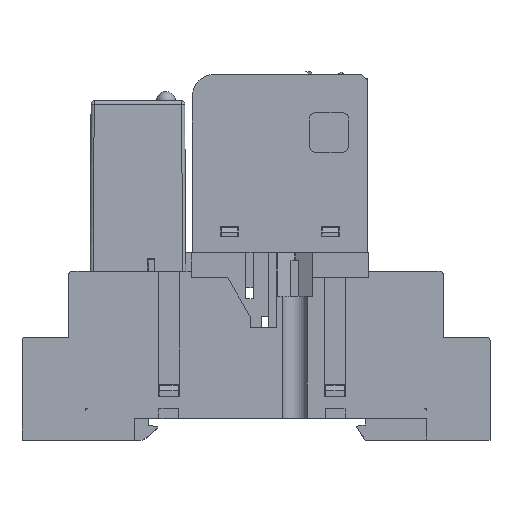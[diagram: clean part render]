
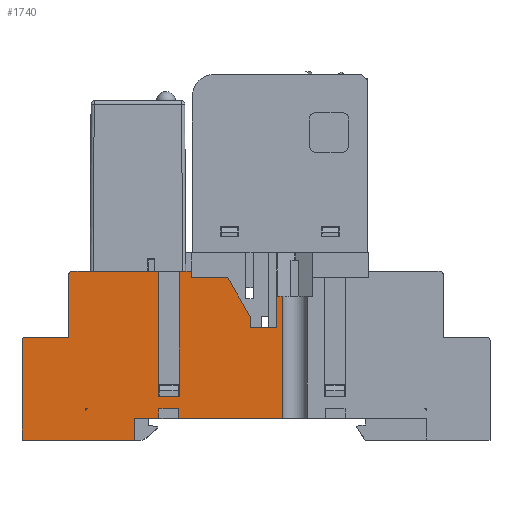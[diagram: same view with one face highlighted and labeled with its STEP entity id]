
A CAD part, top view. The second image highlights one B-rep face of the part: STEP entity #1740.
In plain terms, the highlighted planar face has unit normal (0, 0, 1).
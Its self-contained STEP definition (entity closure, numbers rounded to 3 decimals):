
#1740=ADVANCED_FACE('',(#38654,#38656),#38658,.T.);
#38654=FACE_BOUND('',#38655,.T.);
#38655=EDGE_LOOP('',(#74058,#74059,#74060,#74061,#74062,#74063,#74064,#74065,#74066,
#74067,#74068,#74069,#74070,#74071,#74072,#74073,#74074,#74075,#74076,#74077,#74078,
#74079,#74080,#74081,#74082));
#38656=FACE_BOUND('',#38657,.T.);
#38657=EDGE_LOOP('',(#74083,#74084,#74085));
#38658=PLANE('',#38659);
#38659=AXIS2_PLACEMENT_3D('',#38660,#38661,#38662);
#38660=CARTESIAN_POINT('',(-43.65,0.,15.));
#38661=DIRECTION('',(0.,0.,1.));
#38662=DIRECTION('',(1.,0.,0.));
#74058=ORIENTED_EDGE('',*,*,#96170,.T.);
#74059=ORIENTED_EDGE('',*,*,#96171,.T.);
#74060=ORIENTED_EDGE('',*,*,#96172,.T.);
#74061=ORIENTED_EDGE('',*,*,#95763,.F.);
#74062=ORIENTED_EDGE('',*,*,#96169,.F.);
#74063=ORIENTED_EDGE('',*,*,#96173,.T.);
#74064=ORIENTED_EDGE('',*,*,#96174,.T.);
#74065=ORIENTED_EDGE('',*,*,#96175,.F.);
#74066=ORIENTED_EDGE('',*,*,#96176,.F.);
#74067=ORIENTED_EDGE('',*,*,#96177,.T.);
#74068=ORIENTED_EDGE('',*,*,#96178,.T.);
#74069=ORIENTED_EDGE('',*,*,#96179,.F.);
#74070=ORIENTED_EDGE('',*,*,#96180,.T.);
#74071=ORIENTED_EDGE('',*,*,#96181,.T.);
#74072=ORIENTED_EDGE('',*,*,#96182,.T.);
#74073=ORIENTED_EDGE('',*,*,#96183,.F.);
#74074=ORIENTED_EDGE('',*,*,#96184,.T.);
#74075=ORIENTED_EDGE('',*,*,#96185,.F.);
#74076=ORIENTED_EDGE('',*,*,#96186,.T.);
#74077=ORIENTED_EDGE('',*,*,#96187,.T.);
#74078=ORIENTED_EDGE('',*,*,#96188,.T.);
#74079=ORIENTED_EDGE('',*,*,#96189,.T.);
#74080=ORIENTED_EDGE('',*,*,#96190,.T.);
#74081=ORIENTED_EDGE('',*,*,#96191,.T.);
#74082=ORIENTED_EDGE('',*,*,#95767,.F.);
#74083=ORIENTED_EDGE('',*,*,#96192,.T.);
#74084=ORIENTED_EDGE('',*,*,#96193,.T.);
#74085=ORIENTED_EDGE('',*,*,#96194,.F.);
#95763=EDGE_CURVE('',#107269,#107271,#107272,.T.);
#95767=EDGE_CURVE('',#107277,#107279,#107280,.T.);
#96169=EDGE_CURVE('',#107970,#107269,#107972,.F.);
#96170=EDGE_CURVE('',#107277,#107973,#107974,.F.);
#96171=EDGE_CURVE('',#107973,#107975,#107976,.F.);
#96172=EDGE_CURVE('',#107975,#107271,#107977,.F.);
#96173=EDGE_CURVE('',#107970,#107978,#107979,.F.);
#96174=EDGE_CURVE('',#107978,#107980,#107981,.T.);
#96175=EDGE_CURVE('',#107982,#107980,#107983,.F.);
#96176=EDGE_CURVE('',#107984,#107982,#107985,.T.);
#96177=EDGE_CURVE('',#107984,#107986,#107987,.T.);
#96178=EDGE_CURVE('',#107986,#107988,#107989,.T.);
#96179=EDGE_CURVE('',#107990,#107988,#107991,.T.);
#96180=EDGE_CURVE('',#107990,#107992,#107993,.F.);
#96181=EDGE_CURVE('',#107992,#107994,#107995,.F.);
#96182=EDGE_CURVE('',#107994,#107996,#107997,.F.);
#96183=EDGE_CURVE('',#107998,#107996,#107999,.T.);
#96184=EDGE_CURVE('',#107998,#108000,#108001,.T.);
#96185=EDGE_CURVE('',#108002,#108000,#108003,.T.);
#96186=EDGE_CURVE('',#108002,#108004,#108005,.F.);
#96187=EDGE_CURVE('',#108004,#108006,#108007,.F.);
#96188=EDGE_CURVE('',#108006,#108008,#108009,.F.);
#96189=EDGE_CURVE('',#108008,#108010,#108011,.F.);
#96190=EDGE_CURVE('',#108010,#108012,#108013,.F.);
#96191=EDGE_CURVE('',#108012,#107279,#108014,.F.);
#96192=EDGE_CURVE('',#108015,#108016,#108017,.F.);
#96193=EDGE_CURVE('',#108016,#108018,#108019,.F.);
#96194=EDGE_CURVE('',#108015,#108018,#108020,.F.);
#107269=VERTEX_POINT('',#126512);
#107271=VERTEX_POINT('',#126516);
#107272=LINE('',#126517,#126518);
#107277=VERTEX_POINT('',#126528);
#107279=VERTEX_POINT('',#126532);
#107280=LINE('',#126533,#126534);
#107970=VERTEX_POINT('',#128071);
#107972=CIRCLE('',#128075,0.5);
#107973=VERTEX_POINT('',#128079);
#107974=LINE('',#128080,#128081);
#107975=VERTEX_POINT('',#128083);
#107976=LINE('',#128084,#128085);
#107977=LINE('',#128087,#128088);
#107978=VERTEX_POINT('',#128090);
#107979=LINE('',#128091,#128092);
#107980=VERTEX_POINT('',#128094);
#107981=LINE('',#128095,#128096);
#107982=VERTEX_POINT('',#128098);
#107983=CIRCLE('',#128099,0.5);
#107984=VERTEX_POINT('',#128103);
#107985=LINE('',#128104,#128105);
#107986=VERTEX_POINT('',#128107);
#107987=LINE('',#128108,#128109);
#107988=VERTEX_POINT('',#128111);
#107989=LINE('',#128112,#128113);
#107990=VERTEX_POINT('',#128115);
#107991=LINE('',#128116,#128117);
#107992=VERTEX_POINT('',#128119);
#107993=LINE('',#128120,#128121);
#107994=VERTEX_POINT('',#128123);
#107995=LINE('',#128124,#128125);
#107996=VERTEX_POINT('',#128127);
#107997=LINE('',#128128,#128129);
#107998=VERTEX_POINT('',#128131);
#107999=LINE('',#128132,#128133);
#108000=VERTEX_POINT('',#128135);
#108001=LINE('',#128136,#128137);
#108002=VERTEX_POINT('',#128139);
#108003=LINE('',#128140,#128141);
#108004=VERTEX_POINT('',#128143);
#108005=LINE('',#128144,#128145);
#108006=VERTEX_POINT('',#128147);
#108007=LINE('',#128148,#128149);
#108008=VERTEX_POINT('',#128151);
#108009=LINE('',#128152,#128153);
#108010=VERTEX_POINT('',#128155);
#108011=LINE('',#128156,#128157);
#108012=VERTEX_POINT('',#128159);
#108013=LINE('',#128160,#128161);
#108014=LINE('',#128163,#128164);
#108015=VERTEX_POINT('',#128166);
#108016=VERTEX_POINT('',#128167);
#108017=LINE('',#128168,#128169);
#108018=VERTEX_POINT('',#128171);
#108019=LINE('',#128172,#128173);
#108020=CIRCLE('',#128175,0.3);
#126512=CARTESIAN_POINT('',(-35.65,27.,15.));
#126516=CARTESIAN_POINT('',(-21.85,27.,15.));
#126517=CARTESIAN_POINT('',(-35.65,27.,15.));
#126518=VECTOR('',#126519,1.);
#126519=DIRECTION('',(1.,0.,0.));
#126528=CARTESIAN_POINT('',(-18.45,27.,15.));
#126532=CARTESIAN_POINT('',(-16.55,27.,15.));
#126533=CARTESIAN_POINT('',(-18.45,27.,15.));
#126534=VECTOR('',#126535,1.);
#126535=DIRECTION('',(1.,0.,0.));
#128071=CARTESIAN_POINT('',(-36.15,26.5,15.));
#128075=AXIS2_PLACEMENT_3D('',#128076,#128077,#128078);
#128076=CARTESIAN_POINT('',(-35.65,26.5,15.));
#128077=DIRECTION('',(0.,-0.,1.));
#128078=DIRECTION('',(0.,1.,0.));
#128079=CARTESIAN_POINT('',(-18.45,7.,15.));
#128080=CARTESIAN_POINT('',(-18.45,7.,15.));
#128081=VECTOR('',#128082,1.);
#128082=DIRECTION('',(0.,1.,0.));
#128083=CARTESIAN_POINT('',(-21.85,7.,15.));
#128084=CARTESIAN_POINT('',(-21.85,7.,15.));
#128085=VECTOR('',#128086,1.);
#128086=DIRECTION('',(1.,0.,0.));
#128087=CARTESIAN_POINT('',(-21.85,27.,15.));
#128088=VECTOR('',#128089,1.);
#128089=DIRECTION('',(0.,-1.,0.));
#128090=CARTESIAN_POINT('',(-36.15,16.5,15.));
#128091=CARTESIAN_POINT('',(-36.15,16.5,15.));
#128092=VECTOR('',#128093,1.);
#128093=DIRECTION('',(0.,1.,0.));
#128094=CARTESIAN_POINT('',(-43.15,16.5,15.));
#128095=CARTESIAN_POINT('',(-36.15,16.5,15.));
#128096=VECTOR('',#128097,1.);
#128097=DIRECTION('',(-1.,0.,0.));
#128098=CARTESIAN_POINT('',(-43.65,16.,15.));
#128099=AXIS2_PLACEMENT_3D('',#128100,#128101,#128102);
#128100=CARTESIAN_POINT('',(-43.15,16.,15.));
#128101=DIRECTION('',(0.,-0.,1.));
#128102=DIRECTION('',(0.,1.,0.));
#128103=CARTESIAN_POINT('',(-43.65,0.,15.));
#128104=CARTESIAN_POINT('',(-43.65,0.,15.));
#128105=VECTOR('',#128106,1.);
#128106=DIRECTION('',(0.,1.,0.));
#128107=CARTESIAN_POINT('',(-25.65,0.,15.));
#128108=CARTESIAN_POINT('',(-43.65,0.,15.));
#128109=VECTOR('',#128110,1.);
#128110=DIRECTION('',(1.,0.,0.));
#128111=CARTESIAN_POINT('',(-25.65,3.5,15.));
#128112=CARTESIAN_POINT('',(-25.65,0.,15.));
#128113=VECTOR('',#128114,1.);
#128114=DIRECTION('',(0.,1.,0.));
#128115=CARTESIAN_POINT('',(-21.75,3.5,15.));
#128116=CARTESIAN_POINT('',(-21.75,3.5,15.));
#128117=VECTOR('',#128118,1.);
#128118=DIRECTION('',(-1.,0.,0.));
#128119=CARTESIAN_POINT('',(-21.75,5.,15.));
#128120=CARTESIAN_POINT('',(-21.75,5.,15.));
#128121=VECTOR('',#128122,1.);
#128122=DIRECTION('',(0.,-1.,0.));
#128123=CARTESIAN_POINT('',(-18.55,5.,15.));
#128124=CARTESIAN_POINT('',(-18.55,5.,15.));
#128125=VECTOR('',#128126,1.);
#128126=DIRECTION('',(-1.,0.,0.));
#128127=CARTESIAN_POINT('',(-18.55,3.5,15.));
#128128=CARTESIAN_POINT('',(-18.55,3.5,15.));
#128129=VECTOR('',#128130,1.);
#128130=DIRECTION('',(0.,1.,0.));
#128131=CARTESIAN_POINT('',(-2.,3.5,15.));
#128132=CARTESIAN_POINT('',(-2.,3.5,15.));
#128133=VECTOR('',#128134,1.);
#128134=DIRECTION('',(-1.,0.,0.));
#128135=CARTESIAN_POINT('',(-2.,23.,15.));
#128136=CARTESIAN_POINT('',(-2.,3.5,15.));
#128137=VECTOR('',#128138,1.);
#128138=DIRECTION('',(0.,1.,0.));
#128139=CARTESIAN_POINT('',(-2.9,23.,15.));
#128140=CARTESIAN_POINT('',(-2.9,23.,15.));
#128141=VECTOR('',#128142,1.);
#128142=DIRECTION('',(1.,0.,0.));
#128143=CARTESIAN_POINT('',(-2.9,18.,15.));
#128144=CARTESIAN_POINT('',(-2.9,18.,15.));
#128145=VECTOR('',#128146,1.);
#128146=DIRECTION('',(0.,1.,0.));
#128147=CARTESIAN_POINT('',(-7.15,18.,15.));
#128148=CARTESIAN_POINT('',(-7.15,18.,15.));
#128149=VECTOR('',#128150,1.);
#128150=DIRECTION('',(1.,0.,0.));
#128151=CARTESIAN_POINT('',(-7.15,19.8,15.));
#128152=CARTESIAN_POINT('',(-7.15,19.8,15.));
#128153=VECTOR('',#128154,1.);
#128154=DIRECTION('',(0.,-1.,0.));
#128155=CARTESIAN_POINT('',(-10.73,26.,15.));
#128156=CARTESIAN_POINT('',(-10.73,26.,15.));
#128157=VECTOR('',#128158,1.);
#128158=DIRECTION('',(0.5,-0.866,0.));
#128159=CARTESIAN_POINT('',(-16.55,26.,15.));
#128160=CARTESIAN_POINT('',(-16.55,26.,15.));
#128161=VECTOR('',#128162,1.);
#128162=DIRECTION('',(1.,0.,0.));
#128163=CARTESIAN_POINT('',(-16.55,27.,15.));
#128164=VECTOR('',#128165,1.);
#128165=DIRECTION('',(0.,-1.,0.));
#128166=CARTESIAN_POINT('',(-33.45,4.7,15.));
#128167=CARTESIAN_POINT('',(-33.45,5.,15.));
#128168=CARTESIAN_POINT('',(-33.45,5.,15.));
#128169=VECTOR('',#128170,1.);
#128170=DIRECTION('',(0.,-1.,0.));
#128171=CARTESIAN_POINT('',(-33.15,5.,15.));
#128172=CARTESIAN_POINT('',(-33.15,5.,15.));
#128173=VECTOR('',#128174,1.);
#128174=DIRECTION('',(-1.,0.,0.));
#128175=AXIS2_PLACEMENT_3D('',#128176,#128177,#128178);
#128176=CARTESIAN_POINT('',(-33.15,4.7,15.));
#128177=DIRECTION('',(0.,-0.,1.));
#128178=DIRECTION('',(0.,1.,0.));
